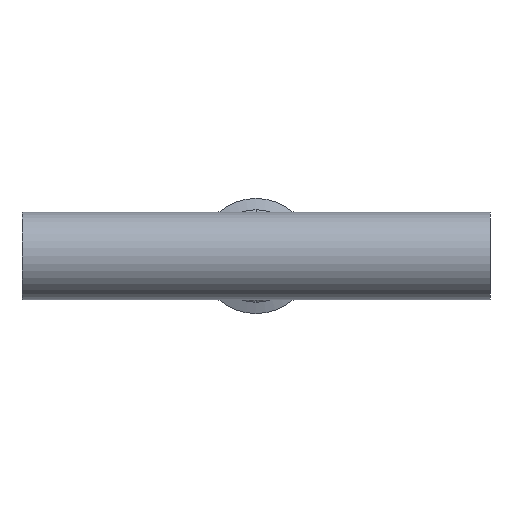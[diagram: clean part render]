
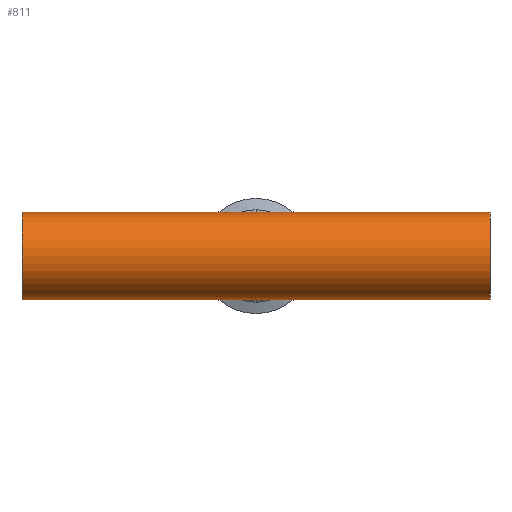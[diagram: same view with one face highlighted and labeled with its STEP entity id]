
A CAD part, front view. The second image highlights one B-rep face of the part: STEP entity #811.
In plain terms, the highlighted cylindrical face has radius 9.525 mm (diameter 19.05 mm), a partial arc.
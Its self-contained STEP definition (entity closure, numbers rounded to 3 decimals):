
#2 = CIRCLE ( 'NONE', #308, 9.525 ) ;
#7 = CIRCLE ( 'NONE', #1064, 9.525 ) ;
#68 = DIRECTION ( 'NONE',  ( 1., 0., 0. ) ) ;
#102 = VERTEX_POINT ( 'NONE', #485 ) ;
#111 = VERTEX_POINT ( 'NONE', #969 ) ;
#134 = DIRECTION ( 'NONE',  ( 0., 0., -1. ) ) ;
#173 = CARTESIAN_POINT ( 'NONE',  ( 0., 0., -9.525 ) ) ;
#186 = VERTEX_POINT ( 'NONE', #292 ) ;
#192 = CYLINDRICAL_SURFACE ( 'NONE', #678, 9.525 ) ;
#265 = EDGE_CURVE ( 'NONE', #102, #186, #2, .T. ) ;
#292 = CARTESIAN_POINT ( 'NONE',  ( 50.8, 0., 9.525 ) ) ;
#305 = VERTEX_POINT ( 'NONE', #1100 ) ;
#308 = AXIS2_PLACEMENT_3D ( 'NONE', #968, #1023, #1008 ) ;
#319 = EDGE_CURVE ( 'NONE', #305, #186, #810, .T. ) ;
#336 = EDGE_CURVE ( 'NONE', #111, #507, #769, .T. ) ;
#345 = VERTEX_POINT ( 'NONE', #905 ) ;
#348 = ORIENTED_EDGE ( 'NONE', *, *, #265, .T. ) ;
#423 = DIRECTION ( 'NONE',  ( 1., 0., 0. ) ) ;
#435 = CARTESIAN_POINT ( 'NONE',  ( -50.8, 0., 9.525 ) ) ;
#485 = CARTESIAN_POINT ( 'NONE',  ( 50.8, 0., -9.525 ) ) ;
#507 = VERTEX_POINT ( 'NONE', #173 ) ;
#544 = VECTOR ( 'NONE', #68, 1000. ) ;
#615 = ORIENTED_EDGE ( 'NONE', *, *, #873, .T. ) ;
#627 = DIRECTION ( 'NONE',  ( 0., 0., -1. ) ) ;
#664 = VECTOR ( 'NONE', #960, 1000. ) ;
#678 = AXIS2_PLACEMENT_3D ( 'NONE', #693, #1084, #627 ) ;
#686 = ORIENTED_EDGE ( 'NONE', *, *, #336, .T. ) ;
#693 = CARTESIAN_POINT ( 'NONE',  ( -50.8, 0., 0. ) ) ;
#717 = DIRECTION ( 'NONE',  ( 1., 0., 0. ) ) ;
#735 = ORIENTED_EDGE ( 'NONE', *, *, #1002, .T. ) ;
#761 = CARTESIAN_POINT ( 'NONE',  ( -50.8, 0., -9.525 ) ) ;
#769 = LINE ( 'NONE', #1042, #664 ) ;
#774 = ORIENTED_EDGE ( 'NONE', *, *, #964, .F. ) ;
#793 = EDGE_LOOP ( 'NONE', ( #774, #735, #686, #615, #348, #841 ) ) ;
#810 = LINE ( 'NONE', #1154, #909 ) ;
#811 = ADVANCED_FACE ( 'NONE', ( #890 ), #192, .T. ) ;
#819 = CARTESIAN_POINT ( 'NONE',  ( -50.8, 0., 0. ) ) ;
#841 = ORIENTED_EDGE ( 'NONE', *, *, #319, .F. ) ;
#873 = EDGE_CURVE ( 'NONE', #507, #102, #1030, .T. ) ;
#890 = FACE_OUTER_BOUND ( 'NONE', #793, .T. ) ;
#905 = CARTESIAN_POINT ( 'NONE',  ( -50.8, 0., 9.525 ) ) ;
#909 = VECTOR ( 'NONE', #1161, 1000. ) ;
#941 = VECTOR ( 'NONE', #717, 1000. ) ;
#960 = DIRECTION ( 'NONE',  ( 1., 0., 0. ) ) ;
#964 = EDGE_CURVE ( 'NONE', #345, #305, #967, .T. ) ;
#967 = LINE ( 'NONE', #435, #941 ) ;
#968 = CARTESIAN_POINT ( 'NONE',  ( 50.8, 0., 0. ) ) ;
#969 = CARTESIAN_POINT ( 'NONE',  ( -50.8, 0., -9.525 ) ) ;
#1002 = EDGE_CURVE ( 'NONE', #345, #111, #7, .T. ) ;
#1008 = DIRECTION ( 'NONE',  ( 0., 0., -1. ) ) ;
#1023 = DIRECTION ( 'NONE',  ( -1., 0., 0. ) ) ;
#1030 = LINE ( 'NONE', #761, #544 ) ;
#1042 = CARTESIAN_POINT ( 'NONE',  ( -50.8, 0., -9.525 ) ) ;
#1064 = AXIS2_PLACEMENT_3D ( 'NONE', #819, #423, #134 ) ;
#1084 = DIRECTION ( 'NONE',  ( 1., 0., 0. ) ) ;
#1100 = CARTESIAN_POINT ( 'NONE',  ( 0., 0., 9.525 ) ) ;
#1154 = CARTESIAN_POINT ( 'NONE',  ( -50.8, 0., 9.525 ) ) ;
#1161 = DIRECTION ( 'NONE',  ( 1., 0., 0. ) ) ;
